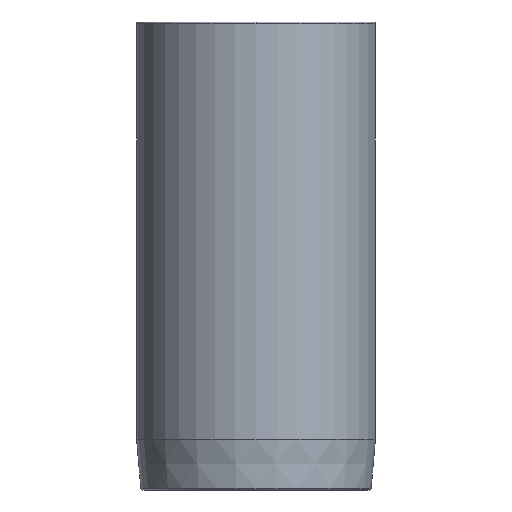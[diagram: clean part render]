
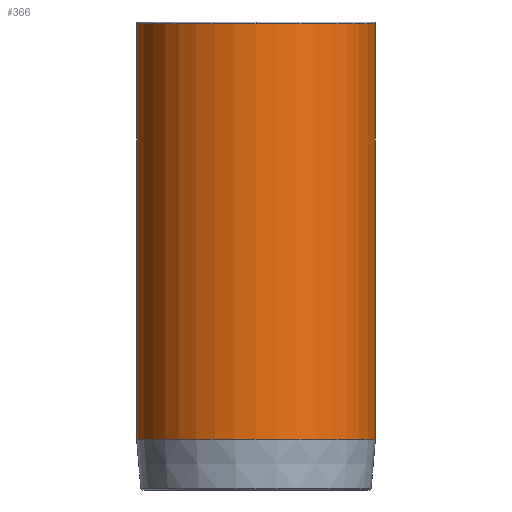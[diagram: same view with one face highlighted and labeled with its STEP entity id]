
A CAD part, front view. The second image highlights one B-rep face of the part: STEP entity #366.
In plain terms, the highlighted cylindrical face has radius 30.625 mm (diameter 61.25 mm), a partial arc.
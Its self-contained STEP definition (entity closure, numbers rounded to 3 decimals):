
#271=CARTESIAN_POINT('',(0.0,-30.625,58.5));
#272=VERTEX_POINT('',#271);
#298=CARTESIAN_POINT('',(-30.625,0.,58.5));
#299=VERTEX_POINT('',#298);
#307=CARTESIAN_POINT('',(0.0,0.,58.5));
#308=DIRECTION('',(0.0,0.0,1.0));
#309=DIRECTION('',(1.0,0.0,0.0));
#310=AXIS2_PLACEMENT_3D('',#307,#308,#309);
#311=CIRCLE('',#310,30.625);
#312=EDGE_CURVE('',#299,#272,#311,.T.);
#317=CARTESIAN_POINT('',(0.0,0.,5.272));
#318=DIRECTION('',(0.0,0.,1.0));
#319=DIRECTION('',(1.0,0.0,0.0));
#320=AXIS2_PLACEMENT_3D('',#317,#318,#319);
#321=CYLINDRICAL_SURFACE('',#320,30.625);
#322=CARTESIAN_POINT('',(30.625,0.,58.5));
#323=VERTEX_POINT('',#322);
#324=CARTESIAN_POINT('',(30.625,0.,-47.956));
#325=VERTEX_POINT('',#324);
#326=CARTESIAN_POINT('',(30.625,0.,58.5));
#327=DIRECTION('',(0.0,0.0,-1.0));
#328=VECTOR('',#327,106.456);
#329=LINE('',#326,#328);
#330=EDGE_CURVE('',#323,#325,#329,.T.);
#331=ORIENTED_EDGE('',*,*,#330,.F.);
#332=CARTESIAN_POINT('',(0.0,0.,58.5));
#333=DIRECTION('',(0.0,0.0,1.0));
#334=DIRECTION('',(1.0,0.0,0.0));
#335=AXIS2_PLACEMENT_3D('',#332,#333,#334);
#336=CIRCLE('',#335,30.625);
#337=EDGE_CURVE('',#272,#323,#336,.T.);
#338=ORIENTED_EDGE('',*,*,#337,.F.);
#339=ORIENTED_EDGE('',*,*,#312,.F.);
#340=CARTESIAN_POINT('',(-30.625,0.,-47.956));
#341=VERTEX_POINT('',#340);
#342=CARTESIAN_POINT('',(-30.625,0.,58.5));
#343=DIRECTION('',(0.0,0.0,-1.0));
#344=VECTOR('',#343,106.456);
#345=LINE('',#342,#344);
#346=EDGE_CURVE('',#299,#341,#345,.T.);
#347=ORIENTED_EDGE('',*,*,#346,.T.);
#348=CARTESIAN_POINT('',(0.0,-30.625,-47.956));
#349=VERTEX_POINT('',#348);
#350=CARTESIAN_POINT('',(0.0,0.,-47.956));
#351=DIRECTION('',(0.0,0.0,1.0));
#352=DIRECTION('',(1.0,0.0,0.0));
#353=AXIS2_PLACEMENT_3D('',#350,#351,#352);
#354=CIRCLE('',#353,30.625);
#355=EDGE_CURVE('',#341,#349,#354,.T.);
#356=ORIENTED_EDGE('',*,*,#355,.T.);
#357=CARTESIAN_POINT('',(0.0,0.,-47.956));
#358=DIRECTION('',(0.0,0.0,1.0));
#359=DIRECTION('',(1.0,0.0,0.0));
#360=AXIS2_PLACEMENT_3D('',#357,#358,#359);
#361=CIRCLE('',#360,30.625);
#362=EDGE_CURVE('',#349,#325,#361,.T.);
#363=ORIENTED_EDGE('',*,*,#362,.T.);
#364=EDGE_LOOP('',(#331,#338,#339,#347,#356,#363));
#365=FACE_OUTER_BOUND('',#364,.T.);
#366=ADVANCED_FACE('',(#365),#321,.T.);
